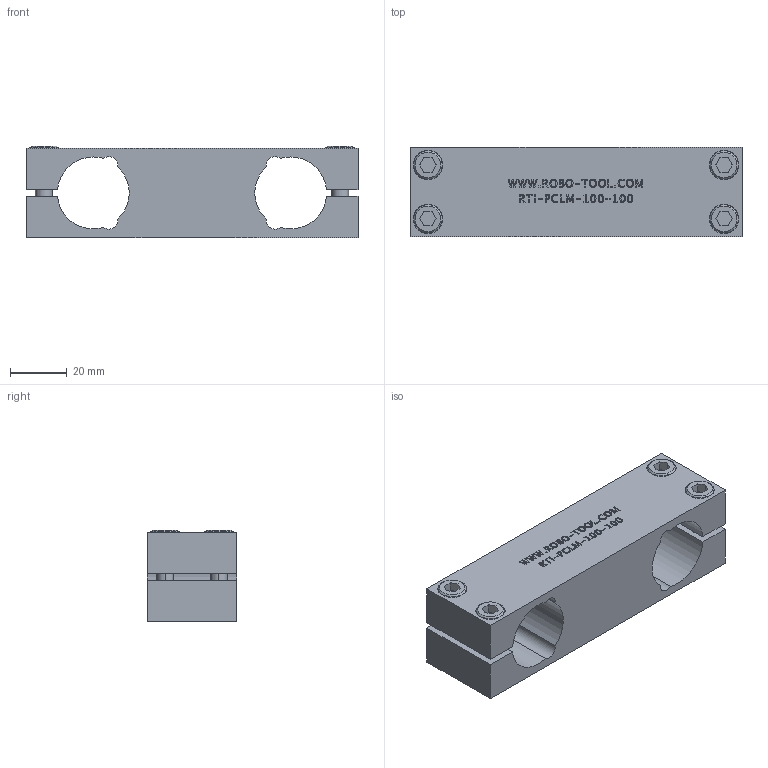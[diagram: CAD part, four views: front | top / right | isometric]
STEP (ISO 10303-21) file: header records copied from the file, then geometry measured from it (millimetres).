
FILE_DESCRIPTION (( 'STEP AP214' ), '1' );
FILE_NAME ('RTI-PCLM-100-100.STEP', '2013-10-22T14:31:38', ( 'user' ), ( '' ), 'SwSTEP 2.0', 'SolidWorks 2009', '' );
FILE_SCHEMA (( 'AUTOMOTIVE_DESIGN' ));
Length unit declared in the file: inch
Products named in the file (4): RTI-PCLM-100-100; M6 WASHER; M6 S.H.C.S._M6x25mm
Assembly tree (9 placements, depth 2):
  RTI-PCLM-100-100
    M6 S.H.C.S._M6x25mm  x4
    RTI-PCLM-100-100
    M6 WASHER  x4
Bounding box: 117.47 x 31.75 x 32.4 mm (x, y, z)
Volume: 84088.4 mm3; surface area: 27088.7 mm2
Topology: 9 solids, 9 shells, 491 faces, 1226 edges, 812 vertices
Faces by surface type: plane 295, bspline 110, cylinder 70, cone 16
Entity records: 24000 total; most frequent: CARTESIAN_POINT 9885, ORIENTED_EDGE 2152, DIRECTION 1594, EDGE_CURVE 1076, LINE 760, VECTOR 760, VERTEX_POINT 716, EDGE_LOOP 490
